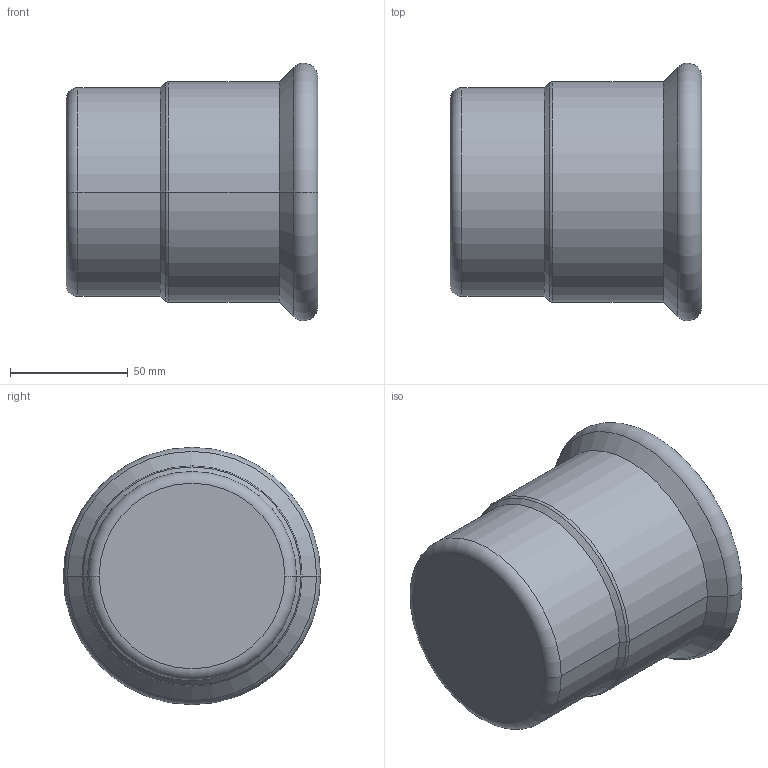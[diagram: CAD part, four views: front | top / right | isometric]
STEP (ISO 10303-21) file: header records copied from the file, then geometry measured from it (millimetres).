
FILE_DESCRIPTION(('OneSpaceDesigner STEP Export'),'2;1');
FILE_NAME('R2729 89.stp','2010-06-10T13:40:24',(''),(''),'OneSpace Designer STEP processor for AP214 (Solid Model)','OneSpace Modeling 15.00A 14-Mar-2007 (C) CoCreate Software GmbH','');
FILE_SCHEMA(('AUTOMOTIVE_DESIGN { 1 0 10303 214 1 1 1 1 }'));
Length unit declared in the file: millimetre
Products named in the file (2): R2729_89
Assembly tree (1 placements, depth 2):
  R2729_89
    R2729_89
Bounding box: 107 x 109.48 x 109.48 mm (x, y, z)
Volume: 116790.7 mm3; surface area: 80769.7 mm2
Topology: 1 solids, 1 shells, 61 faces, 148 edges, 95 vertices
Faces by surface type: plane 32, cylinder 19, torus 6, cone 4
Entity records: 1595 total; most frequent: ORIENTED_EDGE 296, CARTESIAN_POINT 255, DIRECTION 231, EDGE_CURVE 148, VERTEX_POINT 95, VECTOR 89, LINE 89, EDGE_LOOP 73
